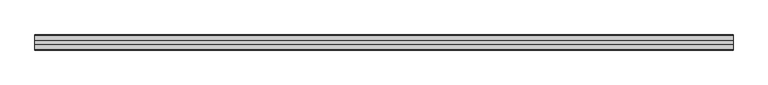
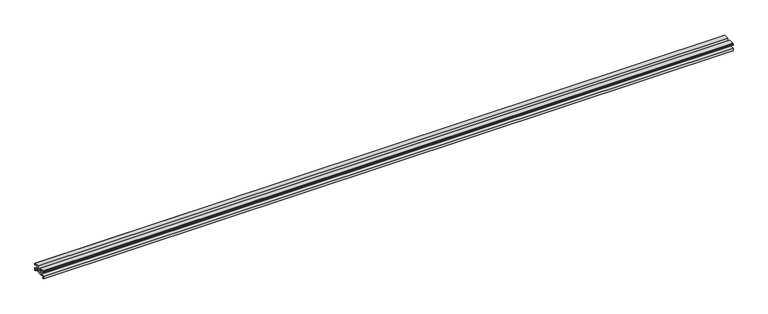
"""IFC4 building model written with IfcOpenShell, lengths in millimetres: proxy geometry, Weiku - Montante - Acoplamento vidro : Weiku - Montante - Acoplamento vidro."""

from ifc_helpers import new_model, si_unit, frame, origin, place, context, project, spatial, polyline, outline, extrude, source, transform, mapped, element, save


def generic_models_adea6b6e(model_context):
    return source(origin(), model_context, "Body", "SweptSolid", [
        extrude(outline(polyline([(-35.405, 5.1494), (-35.405, 6.8004), (-45.741, 6.8004), (-45.741, 2.6094), (-43.8784, 2.6094), (-43.8784, 0.0), (-47.9014508, 0.0), (-47.9014508, 8.79), (-34.946, 8.79), (-34.946, 23.3104), (-43.5397, 23.3104), (-43.5397, 19.204), (-47.9, 19.204), (-47.9, 22.8024), (-46.9264, 22.8024), (-46.9264, 20.3894), (-44.725, 20.3894), (-44.725, 23.9454), (-45.5264504, 23.9454), (-45.5264504, 25.3), (-30.4164, 25.3), (-30.4164, 16.283), (-32.4484, 16.283), (-32.4484, 8.8), (-15.4516, 8.8), (-15.4516, 16.283), (-17.4836, 16.283), (-17.4836, 25.3), (-2.3735496, 25.3), (-2.3735496, 23.9454), (-3.175, 23.9454), (-3.175, 20.3894), (-0.9736, 20.3894), (-0.9736, 22.8024), (0.0, 22.8024), (0.0, 19.204), (-4.3603, 19.204), (-4.3603, 23.3104), (-12.954, 23.3104), (-12.954, 8.79), (0.0014508, 8.79), (0.0014508, 0.0), (-4.0216, 0.0), (-4.0216, 2.6094), (-2.159, 2.6094), (-2.159, 6.8004), (-12.495, 6.8004), (-12.495, 5.1494), (-35.405, 5.1494)])), frame((-1102.9, 0.0, 0.0), z_axis=(1.0, 0.0, 0.0), x_axis=(0.0, 1.0, 0.0)), (0.0, 0.0, 1.0), 2205.8),
    ])


if __name__ == "__main__":
    model = new_model("IFC4")
    model_context = context("Model", 3, world=origin())
    ifc_project = project(units=[si_unit("LENGTHUNIT", "METRE", prefix="MILLI")], contexts=[model_context])
    site = spatial("IfcSite", under=ifc_project)
    building = spatial("IfcBuilding", under=site)
    placement = place(None, origin())
    generic_models_shape = generic_models_adea6b6e(model_context)
    element("IfcBuildingElementProxy", 1, Name="Weiku - Montante - Acoplamento vidro : Weiku - Montante - Acoplamento vidro", ObjectType="Weiku - Montante - Acoplamento vidro : Weiku - Montante - Acoplamento vidro", at=placement, inside=building, context=model_context, shape_type="MappedRepresentation", body=[
        mapped(generic_models_shape, transform((0.0, 0.0, 0.0), x_axis=(1.0, 0.0, 0.0), y_axis=(0.0, 1.0, 0.0), z_axis=(0.0, 0.0, 1.0))),
    ])
    save(model, "model.ifc")
